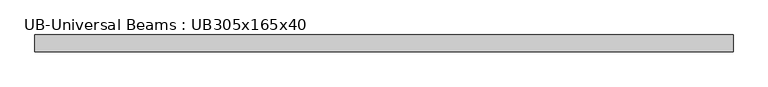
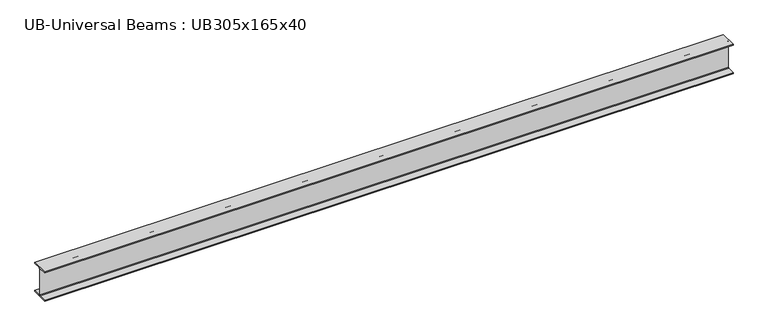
"""IFC4 building model written with IfcOpenShell, lengths in millimetres: beam geometry, UB-Universal Beams : UB305x165x40."""

from ifc_helpers import new_model, si_unit, point, frame, frame_2d, origin, place, context, project, spatial, polyline, circle_curve, trimmed, segment, composite_curve, outline, extrude, source, transform, mapped, element, save


def ub_universal_beams_ub305x165x40_2a963f0c(model_context):
    return source(origin(), model_context, "Body", "SweptSolid", [
        extrude(outline(composite_curve([segment(polyline([(82.5, -141.5), (82.5, -151.7), (-82.5, -151.7), (-82.5, -141.5), (-11.9, -141.5)]), True, "CONTINUOUS"), segment(trimmed(circle_curve(frame_2d((-11.9, -132.6)), 8.9), [point((-11.9, -141.5))], [point((-3.0, -132.6))], True, "CARTESIAN"), True, "CONTINUOUS"), segment(polyline([(-3.0, -132.6), (-3.0, 132.6)]), True, "CONTINUOUS"), segment(trimmed(circle_curve(frame_2d((-11.9, 132.6)), 8.9), [point((-3.0, 132.6))], [point((-11.9, 141.5))], True, "CARTESIAN"), True, "CONTINUOUS"), segment(polyline([(-11.9, 141.5), (-82.5, 141.5), (-82.5, 151.7), (82.5, 151.7), (82.5, 141.5), (11.9, 141.5)]), True, "CONTINUOUS"), segment(trimmed(circle_curve(frame_2d((11.9, 132.6)), 8.9), [point((11.9, 141.5))], [point((3.0, 132.6))], True, "CARTESIAN"), True, "CONTINUOUS"), segment(polyline([(3.0, 132.6), (3.0, -132.6)]), True, "CONTINUOUS"), segment(trimmed(circle_curve(frame_2d((11.9, -132.6)), 8.9), [point((3.0, -132.6))], [point((11.9, -141.5))], True, "CARTESIAN"), True, "CONTINUOUS"), segment(polyline([(11.9, -141.5), (82.5, -141.5)]), True, "CONTINUOUS")], self_intersect=False)), frame((-3402.0, 0.0, 0.0), z_axis=(1.0, 0.0, 0.0), x_axis=(0.0, 1.0, 0.0)), (0.0, 0.0, 1.0), 6804.0),
    ])


if __name__ == "__main__":
    model = new_model("IFC4")
    model_context = context("Model", 3, world=origin())
    ifc_project = project(units=[si_unit("LENGTHUNIT", "METRE", prefix="MILLI")], contexts=[model_context])
    site = spatial("IfcSite", under=ifc_project)
    building = spatial("IfcBuilding", under=site)
    placement = place(None, origin())
    ub_universal_beams_ub305x165x40_shape = ub_universal_beams_ub305x165x40_2a963f0c(model_context)
    element("IfcBeam", 1, ObjectType="UB-Universal Beams : UB305x165x40", at=placement, inside=building, context=model_context, shape_type="MappedRepresentation", body=[
        mapped(ub_universal_beams_ub305x165x40_shape, transform((0.0, 0.0, 0.0), x_axis=(1.0, 0.0, 0.0), y_axis=(0.0, 1.0, 0.0), z_axis=(0.0, 0.0, 1.0))),
    ])
    save(model, "model.ifc")
